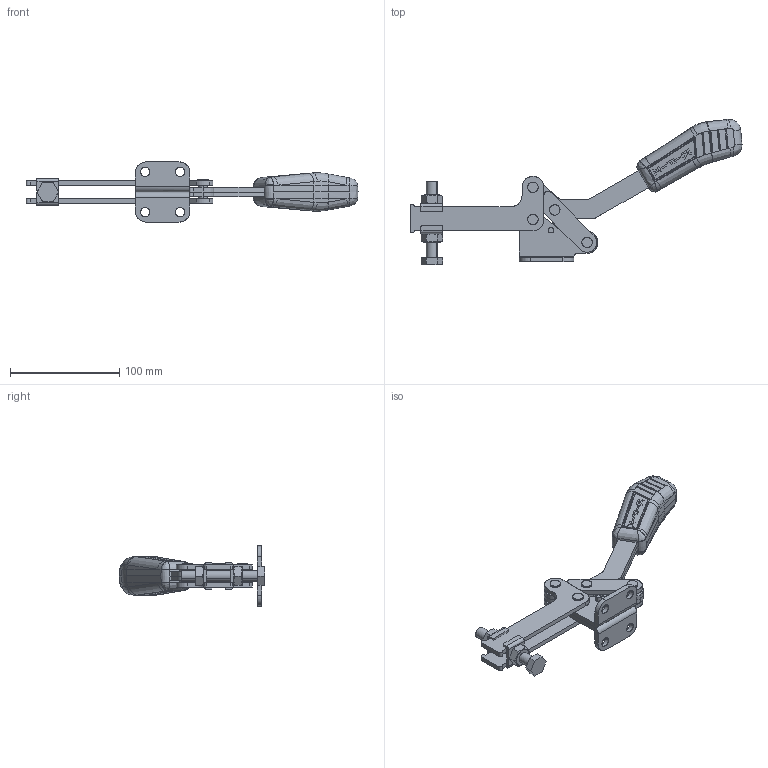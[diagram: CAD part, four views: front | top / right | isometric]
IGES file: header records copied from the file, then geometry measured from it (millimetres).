
Start section: SolidWorks IGES file using analytic representation for surfaces
Global section: file name: C:\Projetos\Grampos\KF-541\KF-541 DL\KF-541 DL.IGS; native system: SolidWorks 2013; preprocessor: SolidWorks 2013; author: Ricardo; date: 140818.142118; units: millimetre
Bounding box: 303.8 x 132.92 x 55 mm (x, y, z)
Surface area: 84631.5 mm2 (no closed solid volume)
Topology: 0 solids, 0 shells, 761 faces, 8960 edges, 8929 vertices
Faces by surface type: bspline 431, revolution 330
